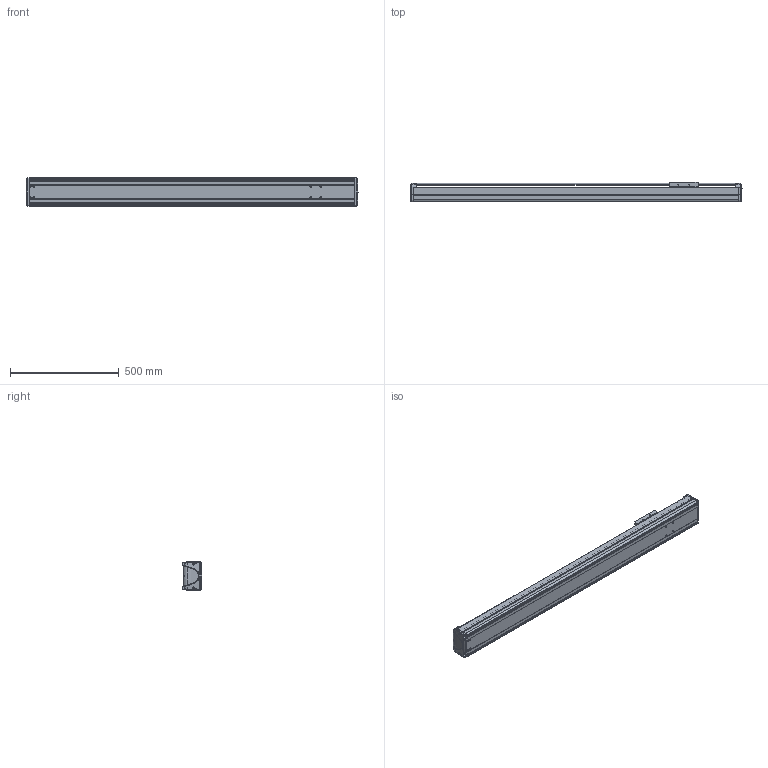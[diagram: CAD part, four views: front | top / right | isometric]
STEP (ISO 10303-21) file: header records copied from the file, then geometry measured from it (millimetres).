
FILE_DESCRIPTION((''),'2;1');
FILE_NAME('BE30E-ST-M_B-B5_IGS_PRT','2017-06-17T',(' '),(''),'PRO/ENGINEER BY PARAMETRIC TECHNOLOGY CORPORATION, 2015030','PRO/ENGINEER BY PARAMETRIC TECHNOLOGY CORPORATION, 2015030','');
FILE_SCHEMA(('CONFIG_CONTROL_DESIGN'));
Length unit declared in the file: millimetre
Products named in the file (1): BE30E-ST-M_B-B5_IGS_PRT
Bounding box: 1525 x 89.8 x 130 mm (x, y, z)
Volume: 4597205 mm3; surface area: 1796114.9 mm2
Topology: 3 solids, 96 shells, 1404 faces, 3786 edges, 2477 vertices
Faces by surface type: cylinder 655, plane 598, bspline 55, torus 42, cone 30, sphere 24
Entity records: 47233 total; most frequent: CARTESIAN_POINT 11819, DIRECTION 7311, ORIENTED_EDGE 7162, EDGE_CURVE 3766, AXIS2_PLACEMENT_3D 2660, VERTEX_POINT 2477, VECTOR 1991, LINE 1991
